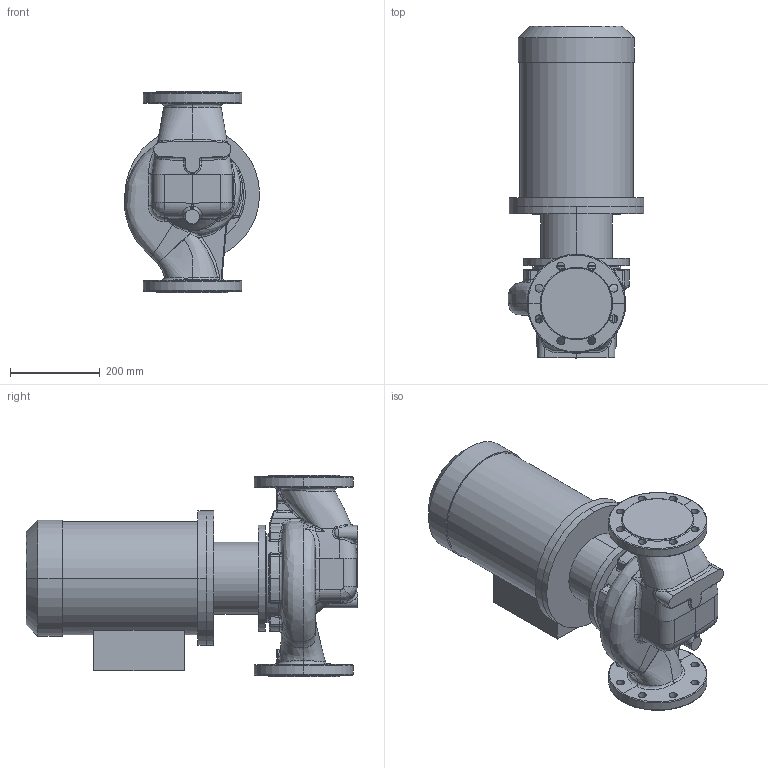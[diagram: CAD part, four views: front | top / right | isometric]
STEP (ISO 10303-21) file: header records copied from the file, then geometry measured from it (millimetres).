
FILE_DESCRIPTION (( 'STEP AP214' ), '1' );
FILE_NAME ('KRL 100-125-2-7,5.STEP', '2026-04-06T07:42:04', ( '' ), ( '' ), 'SwSTEP 2.0', 'SolidWorks 2016', '' );
FILE_SCHEMA (( 'AUTOMOTIVE_DESIGN' ));
Length unit declared in the file: millimetre
Products named in the file (1): KRL 100-125-2-7,5
Bounding box: 301.65 x 740.3 x 450 mm (x, y, z)
Volume: 38176844.1 mm3; surface area: 1334741.7 mm2
Topology: 4 solids, 4 shells, 556 faces, 1380 edges, 833 vertices
Faces by surface type: bspline 269, cylinder 129, plane 86, torus 30, cone 29, sphere 13
Entity records: 54706 total; most frequent: CARTESIAN_POINT 37682, ORIENTED_EDGE 2730, DIRECTION 1608, EDGE_CURVE 1365, VERTEX_POINT 833, AXIS2_PLACEMENT_3D 681, B_SPLINE_CURVE_WITH_KNOTS 662, EDGE_LOOP 604
